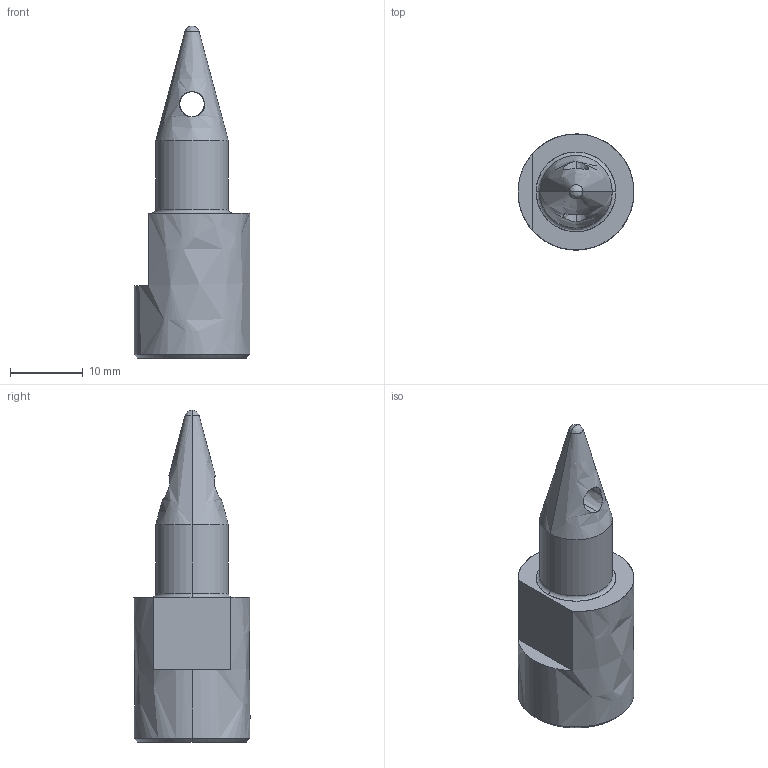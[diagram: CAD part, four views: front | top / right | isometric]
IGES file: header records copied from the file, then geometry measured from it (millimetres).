
Global section: file name: E:\UnigraphicsGraphicData\MISUMI_PRESS-PARTS\IGES\3d_sdkl16_03093_r00.igs; native system: NX V5.0; preprocessor: UGS NX IGES V5.0; author: MISUMI; date: 20110105.162515; units: millimetre
Bounding box: 16 x 16 x 45.8 mm (x, y, z)
Surface area: 1963.9 mm2 (no closed solid volume)
Topology: 0 solids, 0 shells, 18 faces, 120 edges, 118 vertices
Faces by surface type: bspline 18
